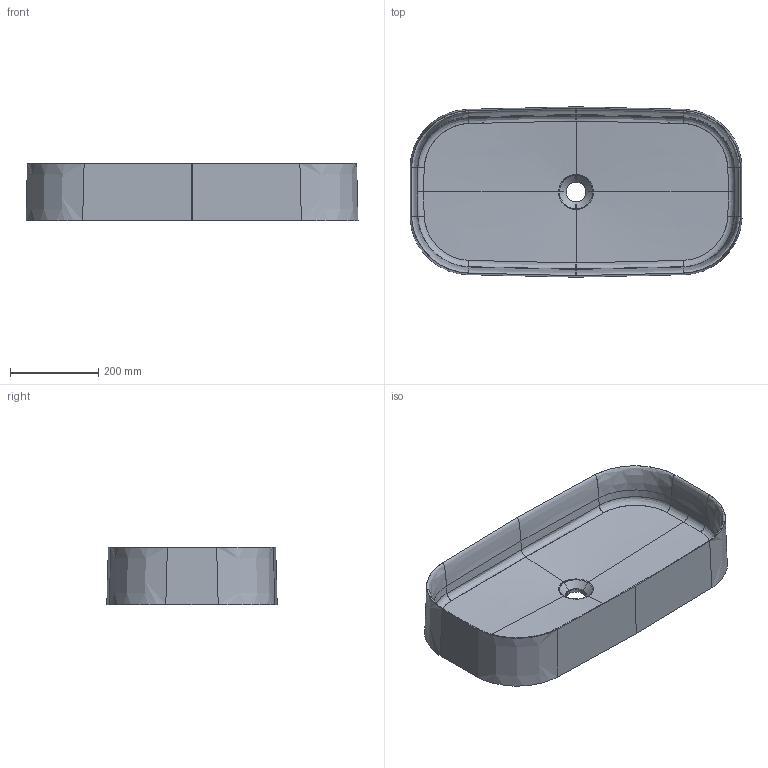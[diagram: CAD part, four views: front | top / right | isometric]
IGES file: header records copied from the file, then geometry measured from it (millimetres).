
Start section: START RECORD GO HERE.
Global section: file name: 7409_lavabo 75x38.igs; native system: DASSAULT SYSTEMES CATIA V5 R19 - www.3ds.com; preprocessor: CATIA Version 5 Release 19 SP 5 ; author: gioge; organization: LAPTOP-G94B6G74; date: 20200630.143805; units: millimetre
Bounding box: 753.87 x 386.81 x 130.04 mm (x, y, z)
Surface area: 994962.8 mm2 (no closed solid volume)
Topology: 0 solids, 0 shells, 154 faces, 668 edges, 668 vertices
Faces by surface type: bspline 146, plane 8
